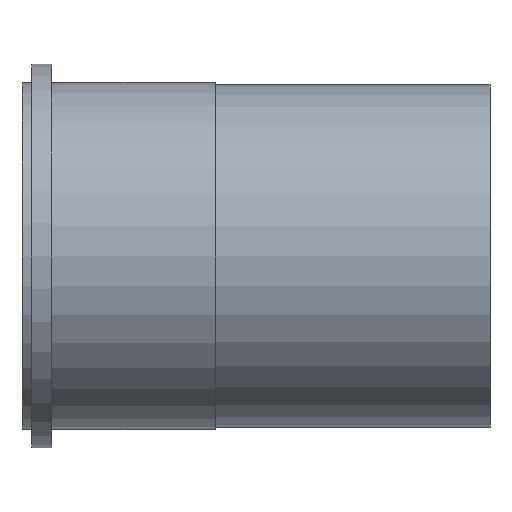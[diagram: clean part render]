
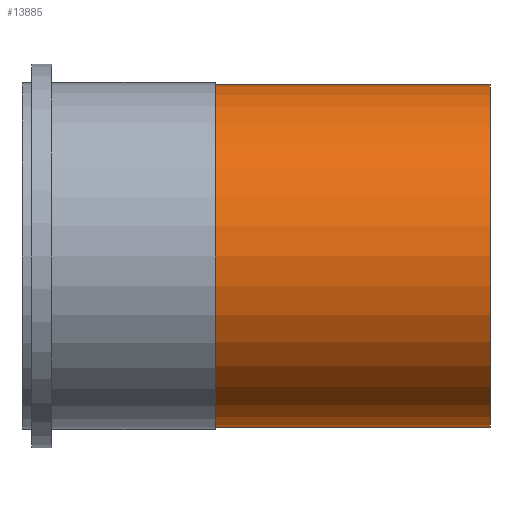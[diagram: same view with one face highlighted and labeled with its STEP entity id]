
A CAD part, front view. The second image highlights one B-rep face of the part: STEP entity #13885.
In plain terms, the highlighted cylindrical face has radius 54.991 mm (diameter 109.982 mm), a full revolution.
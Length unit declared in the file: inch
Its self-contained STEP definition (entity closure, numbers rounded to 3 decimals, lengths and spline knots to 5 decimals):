
#13854=CARTESIAN_POINT('',(2.44,2.165,0.0));
#13855=VERTEX_POINT('',#13854);
#13856=CARTESIAN_POINT('',(2.44,0.0,0.0));
#13857=DIRECTION('',(1.0,0.0,0.0));
#13858=DIRECTION('',(0.0,1.0,0.0));
#13859=AXIS2_PLACEMENT_3D('',#13856,#13857,#13858);
#13860=CIRCLE('',#13859,2.165);
#13861=EDGE_CURVE('',#13855,#13855,#13860,.T.);
#13866=CARTESIAN_POINT('',(4.17276,0.0,0.0));
#13867=DIRECTION('',(1.0,0.0,0.0));
#13868=DIRECTION('',(0.0,1.0,0.0));
#13869=AXIS2_PLACEMENT_3D('',#13866,#13867,#13868);
#13870=CYLINDRICAL_SURFACE('',#13869,2.165);
#13871=CARTESIAN_POINT('',(5.90551,2.165,0.0));
#13872=VERTEX_POINT('',#13871);
#13873=CARTESIAN_POINT('',(5.90551,0.0,0.0));
#13874=DIRECTION('',(1.0,0.0,0.0));
#13875=DIRECTION('',(0.0,1.0,0.0));
#13876=AXIS2_PLACEMENT_3D('',#13873,#13874,#13875);
#13877=CIRCLE('',#13876,2.165);
#13878=EDGE_CURVE('',#13872,#13872,#13877,.T.);
#13879=ORIENTED_EDGE('',*,*,#13878,.F.);
#13880=EDGE_LOOP('',(#13879));
#13881=FACE_OUTER_BOUND('',#13880,.T.);
#13882=ORIENTED_EDGE('',*,*,#13861,.T.);
#13883=EDGE_LOOP('',(#13882));
#13884=FACE_BOUND('',#13883,.T.);
#13885=ADVANCED_FACE('',(#13881,#13884),#13870,.T.);
